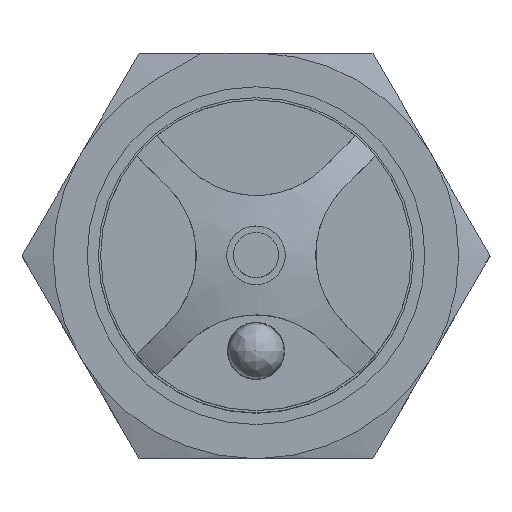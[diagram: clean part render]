
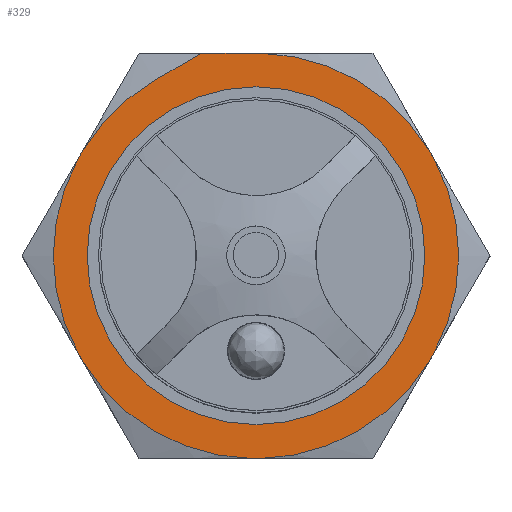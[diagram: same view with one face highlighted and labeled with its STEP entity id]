
A CAD part, top view. The second image highlights one B-rep face of the part: STEP entity #329.
In plain terms, the highlighted planar face has unit normal (0, 0, 1).
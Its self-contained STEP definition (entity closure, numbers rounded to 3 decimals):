
#144=B_SPLINE_CURVE_WITH_KNOTS('',3,(#1860,#1861,#1862,#1863),
 .UNSPECIFIED.,.F.,.F.,(4,4),(0.,1.),.UNSPECIFIED.);
#171=LINE('',#1673,#205);
#174=LINE('',#1753,#208);
#177=LINE('',#1858,#211);
#178=LINE('',#1867,#212);
#179=LINE('',#1871,#213);
#180=LINE('',#1875,#214);
#205=VECTOR('',#1192,1.);
#208=VECTOR('',#1201,1.);
#211=VECTOR('',#1212,1.);
#212=VECTOR('',#1217,1.);
#213=VECTOR('',#1220,1.);
#214=VECTOR('',#1223,1.);
#278=PLANE('',#1021);
#329=ADVANCED_FACE('3-0-11',(#386,#387),#278,.T.);
#386=FACE_BOUND('',#453,.T.);
#387=FACE_BOUND('',#454,.T.);
#453=EDGE_LOOP('',(#628));
#454=EDGE_LOOP('',(#629,#630,#631,#632,#633,#634,#635,#636,#637,#638,#639,
#640,#641));
#628=ORIENTED_EDGE('',*,*,#832,.F.);
#629=ORIENTED_EDGE('',*,*,#870,.F.);
#630=ORIENTED_EDGE('',*,*,#853,.T.);
#631=ORIENTED_EDGE('',*,*,#858,.F.);
#632=ORIENTED_EDGE('',*,*,#843,.T.);
#633=ORIENTED_EDGE('',*,*,#849,.F.);
#634=ORIENTED_EDGE('',*,*,#871,.F.);
#635=ORIENTED_EDGE('',*,*,#872,.F.);
#636=ORIENTED_EDGE('',*,*,#873,.F.);
#637=ORIENTED_EDGE('',*,*,#874,.T.);
#638=ORIENTED_EDGE('',*,*,#875,.F.);
#639=ORIENTED_EDGE('',*,*,#876,.T.);
#640=ORIENTED_EDGE('',*,*,#877,.F.);
#641=ORIENTED_EDGE('',*,*,#867,.T.);
#735=VERTEX_POINT('',#1523);
#745=VERTEX_POINT('',#1625);
#746=VERTEX_POINT('',#1639);
#750=VERTEX_POINT('',#1672);
#752=VERTEX_POINT('',#1711);
#754=VERTEX_POINT('',#1714);
#763=VERTEX_POINT('',#1832);
#764=VERTEX_POINT('',#1846);
#765=VERTEX_POINT('',#1864);
#766=VERTEX_POINT('',#1866);
#767=VERTEX_POINT('',#1868);
#768=VERTEX_POINT('',#1870);
#769=VERTEX_POINT('',#1872);
#770=VERTEX_POINT('',#1874);
#832=EDGE_CURVE('',#735,#735,#925,.T.);
#843=EDGE_CURVE('',#745,#746,#928,.T.);
#849=EDGE_CURVE('',#750,#746,#171,.T.);
#853=EDGE_CURVE('',#754,#752,#930,.T.);
#858=EDGE_CURVE('',#745,#752,#174,.T.);
#867=EDGE_CURVE('',#763,#764,#933,.T.);
#870=EDGE_CURVE('',#754,#764,#177,.T.);
#871=EDGE_CURVE('',#765,#750,#144,.T.);
#872=EDGE_CURVE('',#766,#765,#934,.T.);
#873=EDGE_CURVE('',#767,#766,#178,.T.);
#874=EDGE_CURVE('',#767,#768,#935,.T.);
#875=EDGE_CURVE('',#769,#768,#179,.T.);
#876=EDGE_CURVE('',#769,#770,#936,.T.);
#877=EDGE_CURVE('',#763,#770,#180,.T.);
#925=CIRCLE('',#1005,14.188);
#928=CIRCLE('',#1009,18.005);
#930=CIRCLE('',#1012,18.005);
#933=CIRCLE('',#1016,18.005);
#934=CIRCLE('',#1018,18.005);
#935=CIRCLE('',#1019,18.005);
#936=CIRCLE('',#1020,18.005);
#1005=AXIS2_PLACEMENT_3D('',#1522,#1179,#1180);
#1009=AXIS2_PLACEMENT_3D('',#1640,#1187,#1188);
#1012=AXIS2_PLACEMENT_3D('',#1713,#1197,#1198);
#1016=AXIS2_PLACEMENT_3D('',#1847,#1208,#1209);
#1018=AXIS2_PLACEMENT_3D('',#1865,#1215,#1216);
#1019=AXIS2_PLACEMENT_3D('',#1869,#1218,#1219);
#1020=AXIS2_PLACEMENT_3D('',#1873,#1221,#1222);
#1021=AXIS2_PLACEMENT_3D('',#1876,#1224,#1225);
#1179=DIRECTION('',(0.,0.,1.));
#1180=DIRECTION('',(-1.,0.,0.));
#1187=DIRECTION('',(0.,0.,1.));
#1188=DIRECTION('',(-0.023,1.,0.));
#1192=DIRECTION('',(0.5,0.866,0.));
#1197=DIRECTION('',(0.,0.,1.));
#1198=DIRECTION('',(0.854,0.519,0.));
#1201=DIRECTION('',(1.,0.,0.));
#1208=DIRECTION('',(0.,0.,1.));
#1209=DIRECTION('',(0.877,-0.48,0.));
#1212=DIRECTION('',(0.5,-0.866,0.));
#1215=DIRECTION('',(0.,0.,-1.));
#1216=DIRECTION('',(-0.877,-0.48,0.));
#1217=DIRECTION('',(-0.5,0.866,0.));
#1218=DIRECTION('',(0.,0.,1.));
#1219=DIRECTION('',(-0.854,-0.519,0.));
#1220=DIRECTION('',(-1.,0.,0.));
#1221=DIRECTION('',(0.,0.,1.));
#1222=DIRECTION('',(0.023,-1.,0.));
#1223=DIRECTION('',(-0.5,-0.866,0.));
#1224=DIRECTION('',(0.,0.,1.));
#1225=DIRECTION('',(1.,0.,0.));
#1522=CARTESIAN_POINT('',(0.,0.,2.));
#1523=CARTESIAN_POINT('',(-14.188,0.,2.));
#1625=CARTESIAN_POINT('',(-0.407,18.,2.));
#1639=CARTESIAN_POINT('',(-15.385,9.353,2.));
#1640=CARTESIAN_POINT('',(0.,0.,2.));
#1672=CARTESIAN_POINT('',(-18.005,4.815,2.));
#1673=CARTESIAN_POINT('',(-15.792,8.647,2.));
#1711=CARTESIAN_POINT('',(0.407,18.,2.));
#1713=CARTESIAN_POINT('',(0.,0.,2.));
#1714=CARTESIAN_POINT('',(15.385,9.353,2.));
#1753=CARTESIAN_POINT('',(-0.407,18.,2.));
#1832=CARTESIAN_POINT('',(15.792,-8.647,2.));
#1846=CARTESIAN_POINT('',(15.792,8.647,2.));
#1847=CARTESIAN_POINT('',(0.,0.,2.));
#1858=CARTESIAN_POINT('',(15.385,9.353,2.));
#1860=CARTESIAN_POINT('',(-18.005,0.,2.));
#1861=CARTESIAN_POINT('',(-18.005,1.605,2.));
#1862=CARTESIAN_POINT('',(-18.005,3.21,2.));
#1863=CARTESIAN_POINT('',(-18.005,4.815,2.));
#1864=CARTESIAN_POINT('',(-18.005,0.,2.));
#1865=CARTESIAN_POINT('',(0.,0.,2.));
#1866=CARTESIAN_POINT('',(-15.792,-8.647,2.));
#1867=CARTESIAN_POINT('',(-15.385,-9.353,2.));
#1868=CARTESIAN_POINT('',(-15.385,-9.353,2.));
#1869=CARTESIAN_POINT('',(0.,0.,2.));
#1870=CARTESIAN_POINT('',(-0.407,-18.,2.));
#1871=CARTESIAN_POINT('',(0.407,-18.,2.));
#1872=CARTESIAN_POINT('',(0.407,-18.,2.));
#1873=CARTESIAN_POINT('',(0.,0.,2.));
#1874=CARTESIAN_POINT('',(15.385,-9.353,2.));
#1875=CARTESIAN_POINT('',(15.792,-8.647,2.));
#1876=CARTESIAN_POINT('',(-18.221,-18.,2.));
